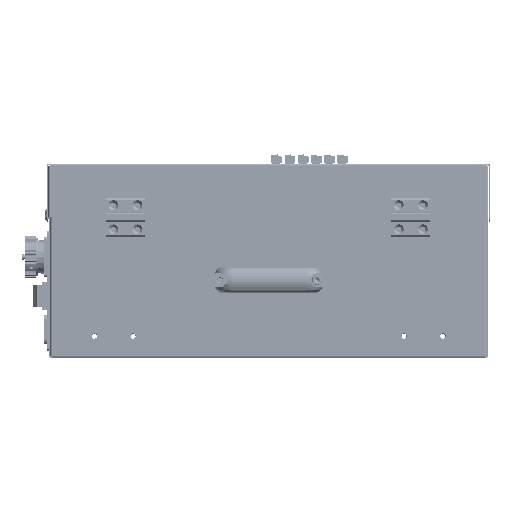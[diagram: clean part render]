
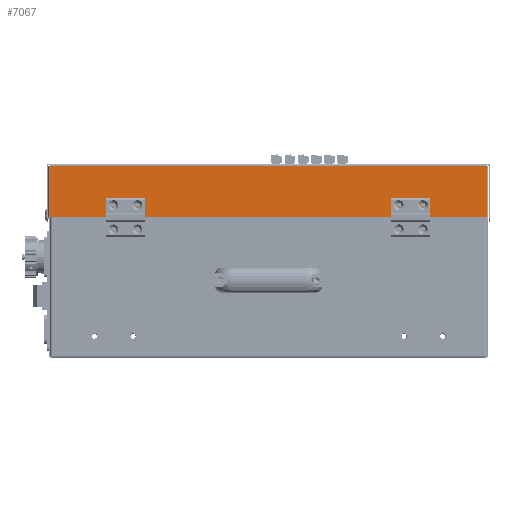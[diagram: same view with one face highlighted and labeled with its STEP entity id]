
A CAD part, front view. The second image highlights one B-rep face of the part: STEP entity #7067.
In plain terms, the highlighted planar face has unit normal (0, -1, 0) as drawn and (0, 1, 0) by its records, which use the part's own axes.
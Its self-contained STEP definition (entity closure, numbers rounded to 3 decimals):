
#637 = VECTOR ( 'NONE', #26626, 1000. ) ;
#2605 = VECTOR ( 'NONE', #36292, 1000. ) ;
#4914 = EDGE_CURVE ( 'NONE', #12869, #36900, #72805, .T. ) ;
#5743 = EDGE_LOOP ( 'NONE', ( #43376, #57224 ) ) ;
#5788 = FACE_BOUND ( 'NONE', #5743, .T. ) ;
#6140 = CARTESIAN_POINT ( 'NONE',  ( -160., 85., 37.85 ) ) ;
#6955 = CIRCLE ( 'NONE', #88728, 2.65 ) ;
#7067 = ADVANCED_FACE ( 'NONE', ( #44418, #75576, #5788, #15247, #45884 ), #7736, .T. ) ;
#7485 = DIRECTION ( 'NONE',  ( 1., 0., 0. ) ) ;
#7736 = PLANE ( 'NONE',  #24150 ) ;
#10917 = VERTEX_POINT ( 'NONE', #26886 ) ;
#11258 = CARTESIAN_POINT ( 'NONE',  ( 135., 85., 40.5 ) ) ;
#11560 = CARTESIAN_POINT ( 'NONE',  ( 225.4, 85., 38.5 ) ) ;
#11647 = VERTEX_POINT ( 'NONE', #95378 ) ;
#12100 = CARTESIAN_POINT ( 'NONE',  ( 135., 85., 37.85 ) ) ;
#12758 = DIRECTION ( 'NONE',  ( 0., 0., 1. ) ) ;
#12869 = VERTEX_POINT ( 'NONE', #89217 ) ;
#13401 = CIRCLE ( 'NONE', #34230, 2.65 ) ;
#13996 = AXIS2_PLACEMENT_3D ( 'NONE', #90089, #75025, #12758 ) ;
#14293 = AXIS2_PLACEMENT_3D ( 'NONE', #41296, #80472, #71940 ) ;
#15247 = FACE_BOUND ( 'NONE', #83140, .T. ) ;
#19108 = CIRCLE ( 'NONE', #75282, 2.65 ) ;
#24150 = AXIS2_PLACEMENT_3D ( 'NONE', #36880, #59980, #38343 ) ;
#24803 = DIRECTION ( 'NONE',  ( 0., 1., 0. ) ) ;
#25158 = VERTEX_POINT ( 'NONE', #95647 ) ;
#25263 = DIRECTION ( 'NONE',  ( 0., 0., 1. ) ) ;
#25787 = DIRECTION ( 'NONE',  ( 0., 1., 0. ) ) ;
#26184 = EDGE_LOOP ( 'NONE', ( #65865, #65420 ) ) ;
#26626 = DIRECTION ( 'NONE',  ( 0., 0., 1. ) ) ;
#26886 = CARTESIAN_POINT ( 'NONE',  ( -225.4, 85., 0.5 ) ) ;
#28777 = EDGE_LOOP ( 'NONE', ( #69768, #74118, #54468, #64967 ) ) ;
#28899 = EDGE_CURVE ( 'NONE', #75754, #25158, #6955, .T. ) ;
#29010 = EDGE_CURVE ( 'NONE', #64130, #54798, #13401, .T. ) ;
#30952 = DIRECTION ( 'NONE',  ( 0., 0., -1. ) ) ;
#32808 = CARTESIAN_POINT ( 'NONE',  ( -160., 85., 40.5 ) ) ;
#33782 = CIRCLE ( 'NONE', #43418, 2.65 ) ;
#34230 = AXIS2_PLACEMENT_3D ( 'NONE', #11258, #41892, #95137 ) ;
#36292 = DIRECTION ( 'NONE',  ( -1., 0., 0. ) ) ;
#36880 = CARTESIAN_POINT ( 'NONE',  ( 0., 85., 0. ) ) ;
#36900 = VERTEX_POINT ( 'NONE', #81630 ) ;
#36908 = CARTESIAN_POINT ( 'NONE',  ( -135., 85., 40.5 ) ) ;
#37115 = CARTESIAN_POINT ( 'NONE',  ( 160., 85., 40.5 ) ) ;
#38343 = DIRECTION ( 'NONE',  ( 0., 0., 1. ) ) ;
#38869 = DIRECTION ( 'NONE',  ( 0., 1., 0. ) ) ;
#39985 = CARTESIAN_POINT ( 'NONE',  ( -225.4, 85., 0. ) ) ;
#40851 = EDGE_CURVE ( 'NONE', #25158, #75754, #55547, .T. ) ;
#41296 = CARTESIAN_POINT ( 'NONE',  ( -135., 85., 40.5 ) ) ;
#41892 = DIRECTION ( 'NONE',  ( 0., 1., 0. ) ) ;
#43376 = ORIENTED_EDGE ( 'NONE', *, *, #29010, .F. ) ;
#43418 = AXIS2_PLACEMENT_3D ( 'NONE', #36908, #38869, #97708 ) ;
#43958 = VERTEX_POINT ( 'NONE', #56244 ) ;
#44418 = FACE_BOUND ( 'NONE', #26184, .T. ) ;
#44821 = CARTESIAN_POINT ( 'NONE',  ( 0., 85., 0.5 ) ) ;
#45884 = FACE_OUTER_BOUND ( 'NONE', #28777, .T. ) ;
#48096 = CARTESIAN_POINT ( 'NONE',  ( 225.4, 85., 53. ) ) ;
#48320 = EDGE_CURVE ( 'NONE', #11647, #89769, #78141, .T. ) ;
#50190 = ORIENTED_EDGE ( 'NONE', *, *, #28899, .F. ) ;
#50929 = EDGE_CURVE ( 'NONE', #12869, #10917, #82505, .T. ) ;
#51308 = CARTESIAN_POINT ( 'NONE',  ( 160., 85., 40.5 ) ) ;
#52619 = VECTOR ( 'NONE', #7485, 1000. ) ;
#54074 = AXIS2_PLACEMENT_3D ( 'NONE', #37115, #67751, #90864 ) ;
#54468 = ORIENTED_EDGE ( 'NONE', *, *, #92799, .F. ) ;
#54742 = ORIENTED_EDGE ( 'NONE', *, *, #40851, .F. ) ;
#54798 = VERTEX_POINT ( 'NONE', #12100 ) ;
#55547 = CIRCLE ( 'NONE', #54074, 2.65 ) ;
#55887 = CIRCLE ( 'NONE', #68703, 2.65 ) ;
#56244 = CARTESIAN_POINT ( 'NONE',  ( -225.4, 85., 53. ) ) ;
#57224 = ORIENTED_EDGE ( 'NONE', *, *, #92314, .F. ) ;
#59980 = DIRECTION ( 'NONE',  ( 0., 1., 0. ) ) ;
#60925 = VECTOR ( 'NONE', #30952, 1000. ) ;
#63989 = DIRECTION ( 'NONE',  ( 0., 0., 1. ) ) ;
#64130 = VERTEX_POINT ( 'NONE', #88157 ) ;
#64618 = EDGE_CURVE ( 'NONE', #76848, #85295, #92852, .T. ) ;
#64808 = ORIENTED_EDGE ( 'NONE', *, *, #64618, .F. ) ;
#64967 = ORIENTED_EDGE ( 'NONE', *, *, #91460, .T. ) ;
#65420 = ORIENTED_EDGE ( 'NONE', *, *, #68792, .F. ) ;
#65865 = ORIENTED_EDGE ( 'NONE', *, *, #48320, .F. ) ;
#67751 = DIRECTION ( 'NONE',  ( 0., 1., 0. ) ) ;
#68703 = AXIS2_PLACEMENT_3D ( 'NONE', #94589, #25787, #25263 ) ;
#68792 = EDGE_CURVE ( 'NONE', #89769, #11647, #19108, .T. ) ;
#69144 = LINE ( 'NONE', #39985, #60925 ) ;
#69710 = EDGE_CURVE ( 'NONE', #85295, #76848, #33782, .T. ) ;
#69768 = ORIENTED_EDGE ( 'NONE', *, *, #4914, .F. ) ;
#70708 = LINE ( 'NONE', #48096, #52619 ) ;
#71940 = DIRECTION ( 'NONE',  ( 0., 0., 1. ) ) ;
#72805 = LINE ( 'NONE', #11560, #637 ) ;
#74118 = ORIENTED_EDGE ( 'NONE', *, *, #50929, .T. ) ;
#74413 = DIRECTION ( 'NONE',  ( 0., 0., 1. ) ) ;
#75025 = DIRECTION ( 'NONE',  ( 0., 1., 0. ) ) ;
#75103 = CARTESIAN_POINT ( 'NONE',  ( -135., 85., 43.15 ) ) ;
#75282 = AXIS2_PLACEMENT_3D ( 'NONE', #32808, #24803, #63989 ) ;
#75576 = FACE_BOUND ( 'NONE', #82012, .T. ) ;
#75754 = VERTEX_POINT ( 'NONE', #76783 ) ;
#76783 = CARTESIAN_POINT ( 'NONE',  ( 160., 85., 37.85 ) ) ;
#76848 = VERTEX_POINT ( 'NONE', #81510 ) ;
#78141 = CIRCLE ( 'NONE', #13996, 2.65 ) ;
#80472 = DIRECTION ( 'NONE',  ( 0., 1., 0. ) ) ;
#81510 = CARTESIAN_POINT ( 'NONE',  ( -135., 85., 37.85 ) ) ;
#81630 = CARTESIAN_POINT ( 'NONE',  ( 225.4, 85., 53. ) ) ;
#81938 = DIRECTION ( 'NONE',  ( 0., 1., 0. ) ) ;
#82012 = EDGE_LOOP ( 'NONE', ( #83335, #64808 ) ) ;
#82505 = LINE ( 'NONE', #44821, #2605 ) ;
#83140 = EDGE_LOOP ( 'NONE', ( #54742, #50190 ) ) ;
#83335 = ORIENTED_EDGE ( 'NONE', *, *, #69710, .F. ) ;
#85295 = VERTEX_POINT ( 'NONE', #75103 ) ;
#88157 = CARTESIAN_POINT ( 'NONE',  ( 135., 85., 43.15 ) ) ;
#88728 = AXIS2_PLACEMENT_3D ( 'NONE', #51308, #81938, #74413 ) ;
#89217 = CARTESIAN_POINT ( 'NONE',  ( 225.4, 85., 0.5 ) ) ;
#89769 = VERTEX_POINT ( 'NONE', #6140 ) ;
#90089 = CARTESIAN_POINT ( 'NONE',  ( -160., 85., 40.5 ) ) ;
#90864 = DIRECTION ( 'NONE',  ( 0., 0., 1. ) ) ;
#91460 = EDGE_CURVE ( 'NONE', #43958, #36900, #70708, .T. ) ;
#92314 = EDGE_CURVE ( 'NONE', #54798, #64130, #55887, .T. ) ;
#92799 = EDGE_CURVE ( 'NONE', #43958, #10917, #69144, .T. ) ;
#92852 = CIRCLE ( 'NONE', #14293, 2.65 ) ;
#94589 = CARTESIAN_POINT ( 'NONE',  ( 135., 85., 40.5 ) ) ;
#95137 = DIRECTION ( 'NONE',  ( 0., 0., 1. ) ) ;
#95378 = CARTESIAN_POINT ( 'NONE',  ( -160., 85., 43.15 ) ) ;
#95647 = CARTESIAN_POINT ( 'NONE',  ( 160., 85., 43.15 ) ) ;
#97708 = DIRECTION ( 'NONE',  ( 0., 0., 1. ) ) ;
